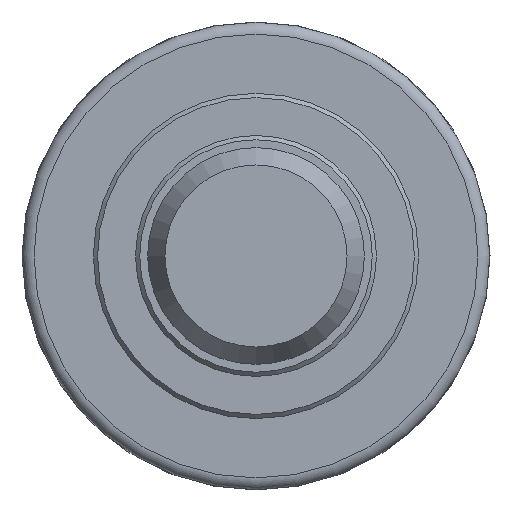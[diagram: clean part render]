
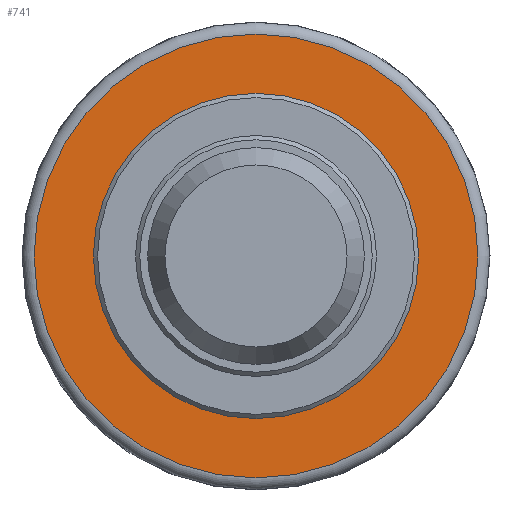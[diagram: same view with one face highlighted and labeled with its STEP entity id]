
A CAD part, left-side view. The second image highlights one B-rep face of the part: STEP entity #741.
In plain terms, the highlighted planar face has unit normal (-1, 0, 0).
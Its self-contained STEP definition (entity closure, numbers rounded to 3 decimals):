
#33=FACE_BOUND('',#141,.T.);
#55=PLANE('',#834);
#92=FACE_OUTER_BOUND('',#140,.T.);
#140=EDGE_LOOP('',(#631));
#141=EDGE_LOOP('',(#632));
#280=CIRCLE('',#833,36.85);
#281=CIRCLE('',#835,26.);
#358=VERTEX_POINT('',#1542);
#359=VERTEX_POINT('',#1546);
#452=EDGE_CURVE('',#358,#358,#280,.T.);
#453=EDGE_CURVE('',#359,#359,#281,.T.);
#631=ORIENTED_EDGE('',*,*,#452,.F.);
#632=ORIENTED_EDGE('',*,*,#453,.T.);
#741=ADVANCED_FACE('',(#92,#33),#55,.T.);
#833=AXIS2_PLACEMENT_3D('',#1544,#1018,#1019);
#834=AXIS2_PLACEMENT_3D('',#1545,#1020,#1021);
#835=AXIS2_PLACEMENT_3D('',#1547,#1022,#1023);
#1018=DIRECTION('center_axis',(1.,0.,0.));
#1019=DIRECTION('ref_axis',(0.,-1.,0.));
#1020=DIRECTION('center_axis',(-1.,0.,0.));
#1021=DIRECTION('ref_axis',(0.,0.,1.));
#1022=DIRECTION('center_axis',(1.,0.,0.));
#1023=DIRECTION('ref_axis',(0.,1.,0.));
#1542=CARTESIAN_POINT('',(-15.5,0.,36.85));
#1544=CARTESIAN_POINT('Origin',(-15.5,0.,0.));
#1545=CARTESIAN_POINT('Origin',(-15.5,32.425,0.));
#1546=CARTESIAN_POINT('',(-15.5,-26.,0.));
#1547=CARTESIAN_POINT('Origin',(-15.5,0.,0.));
